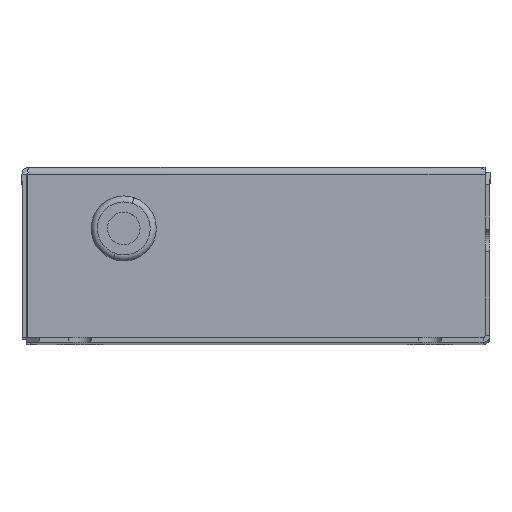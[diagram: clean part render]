
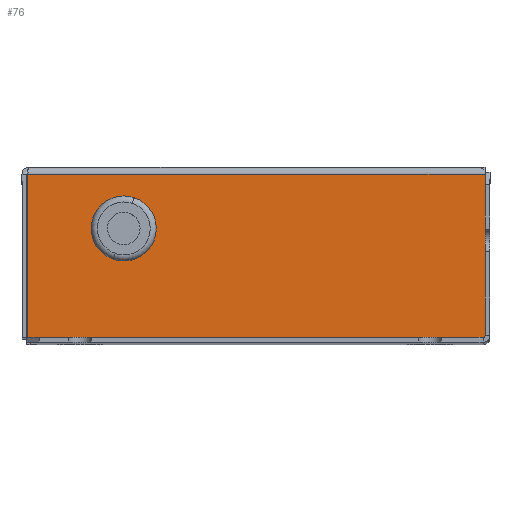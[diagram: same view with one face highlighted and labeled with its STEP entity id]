
A CAD part, top view. The second image highlights one B-rep face of the part: STEP entity #76.
In plain terms, the highlighted planar face has unit normal (0, 0, 1) as drawn and (0, 0, -1) by its records, which use the part's own axes.
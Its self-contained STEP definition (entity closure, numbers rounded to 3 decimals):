
#76 = ADVANCED_FACE ( 'NONE', ( #2323, #4317 ), #9058, .F. ) ;
#122 = CARTESIAN_POINT ( 'NONE',  ( 113.8, -40.6, -280. ) ) ;
#153 = CARTESIAN_POINT ( 'NONE',  ( 112.529, -0.5, -280. ) ) ;
#214 = VERTEX_POINT ( 'NONE', #5511 ) ;
#399 = CARTESIAN_POINT ( 'NONE',  ( 88.8, -13.8, -280. ) ) ;
#422 = CARTESIAN_POINT ( 'NONE',  ( 112.529, -40.6, -280. ) ) ;
#941 = AXIS2_PLACEMENT_3D ( 'NONE', #7578, #1641, #5648 ) ;
#1021 = VERTEX_POINT ( 'NONE', #153 ) ;
#1204 = CARTESIAN_POINT ( 'NONE',  ( 113.8, 0., -280. ) ) ;
#1641 = DIRECTION ( 'NONE',  ( 0., 0., -1. ) ) ;
#2001 = VECTOR ( 'NONE', #2426, 1000. ) ;
#2138 = VECTOR ( 'NONE', #10176, 1000. ) ;
#2188 = DIRECTION ( 'NONE',  ( 0., 0., -1. ) ) ;
#2231 = ORIENTED_EDGE ( 'NONE', *, *, #3660, .T. ) ;
#2323 = FACE_BOUND ( 'NONE', #5111, .T. ) ;
#2426 = DIRECTION ( 'NONE',  ( 0., 1., 0. ) ) ;
#2647 = ORIENTED_EDGE ( 'NONE', *, *, #3539, .F. ) ;
#3539 = EDGE_CURVE ( 'NONE', #9585, #8132, #4448, .T. ) ;
#3660 = EDGE_CURVE ( 'NONE', #1021, #7896, #9001, .T. ) ;
#4211 = DIRECTION ( 'NONE',  ( 0., 0., 1. ) ) ;
#4235 = CARTESIAN_POINT ( 'NONE',  ( 0., -0.5, -280. ) ) ;
#4263 = EDGE_CURVE ( 'NONE', #1021, #10005, #8542, .T. ) ;
#4317 = FACE_OUTER_BOUND ( 'NONE', #5892, .T. ) ;
#4401 = CARTESIAN_POINT ( 'NONE',  ( 0., 0., -280. ) ) ;
#4448 = CIRCLE ( 'NONE', #8560, 6.25 ) ;
#4525 = EDGE_CURVE ( 'NONE', #7896, #214, #11121, .T. ) ;
#4599 = LINE ( 'NONE', #4401, #2001 ) ;
#4829 = AXIS2_PLACEMENT_3D ( 'NONE', #1204, #4211, #11056 ) ;
#5111 = EDGE_LOOP ( 'NONE', ( #7131, #2647 ) ) ;
#5511 = CARTESIAN_POINT ( 'NONE',  ( 0., -40.6, -280. ) ) ;
#5614 = CARTESIAN_POINT ( 'NONE',  ( 88.8, -20.05, -280. ) ) ;
#5648 = DIRECTION ( 'NONE',  ( 0., 1., 0. ) ) ;
#5892 = EDGE_LOOP ( 'NONE', ( #7675, #2231, #6593, #8858 ) ) ;
#6145 = DIRECTION ( 'NONE',  ( 0., 1., 0. ) ) ;
#6593 = ORIENTED_EDGE ( 'NONE', *, *, #4525, .T. ) ;
#6743 = EDGE_CURVE ( 'NONE', #8132, #9585, #8622, .T. ) ;
#7131 = ORIENTED_EDGE ( 'NONE', *, *, #6743, .F. ) ;
#7578 = CARTESIAN_POINT ( 'NONE',  ( 88.8, -13.8, -280. ) ) ;
#7675 = ORIENTED_EDGE ( 'NONE', *, *, #4263, .F. ) ;
#7771 = DIRECTION ( 'NONE',  ( -1., 0., 0. ) ) ;
#7896 = VERTEX_POINT ( 'NONE', #422 ) ;
#8132 = VERTEX_POINT ( 'NONE', #10742 ) ;
#8542 = LINE ( 'NONE', #4235, #9304 ) ;
#8560 = AXIS2_PLACEMENT_3D ( 'NONE', #399, #2188, #6145 ) ;
#8622 = CIRCLE ( 'NONE', #941, 6.25 ) ;
#8858 = ORIENTED_EDGE ( 'NONE', *, *, #11092, .T. ) ;
#9001 = LINE ( 'NONE', #11126, #2138 ) ;
#9058 = PLANE ( 'NONE',  #4829 ) ;
#9288 = VECTOR ( 'NONE', #7771, 1000. ) ;
#9304 = VECTOR ( 'NONE', #11172, 1000. ) ;
#9585 = VERTEX_POINT ( 'NONE', #5614 ) ;
#10005 = VERTEX_POINT ( 'NONE', #10154 ) ;
#10154 = CARTESIAN_POINT ( 'NONE',  ( 0., -0.5, -280. ) ) ;
#10176 = DIRECTION ( 'NONE',  ( 0., -1., 0. ) ) ;
#10742 = CARTESIAN_POINT ( 'NONE',  ( 88.8, -7.55, -280. ) ) ;
#11056 = DIRECTION ( 'NONE',  ( 0., -1., 0. ) ) ;
#11092 = EDGE_CURVE ( 'NONE', #214, #10005, #4599, .T. ) ;
#11121 = LINE ( 'NONE', #122, #9288 ) ;
#11126 = CARTESIAN_POINT ( 'NONE',  ( 112.529, 0., -280. ) ) ;
#11172 = DIRECTION ( 'NONE',  ( -1., 0., 0. ) ) ;
